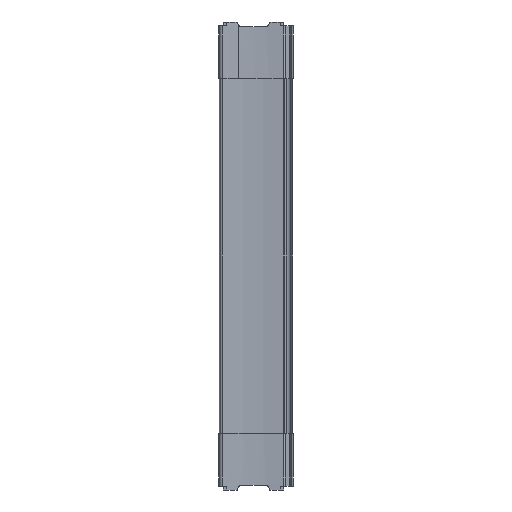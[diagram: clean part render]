
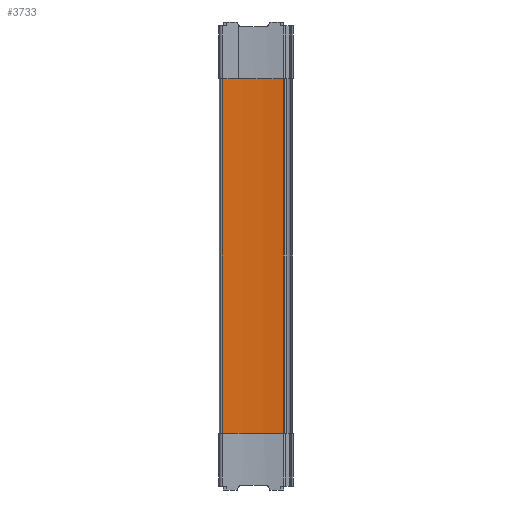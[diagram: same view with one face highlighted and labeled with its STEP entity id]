
A CAD part, left-side view. The second image highlights one B-rep face of the part: STEP entity #3733.
In plain terms, the highlighted cylindrical face has radius 250 mm (diameter 500 mm), a partial arc.
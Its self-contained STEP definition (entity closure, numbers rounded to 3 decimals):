
#574 = ORIENTED_EDGE ( 'NONE', *, *, #2150, .F. ) ;
#575 = ORIENTED_EDGE ( 'NONE', *, *, #2147, .F. ) ;
#576 = ORIENTED_EDGE ( 'NONE', *, *, #2046, .F. ) ;
#577 = ORIENTED_EDGE ( 'NONE', *, *, #2212, .T. ) ;
#1038 = CARTESIAN_POINT ( 'NONE',  ( -8.643, 8.331, 166.3 ) ) ;
#1039 = DIRECTION ( 'NONE',  ( 0., 0., -1. ) ) ;
#1040 = CARTESIAN_POINT ( 'NONE',  ( -255.319, 48.963, -160.3 ) ) ;
#1045 = DIRECTION ( 'NONE',  ( 0., 0., 1. ) ) ;
#1046 = DIRECTION ( 'NONE',  ( -1., 0., 0. ) ) ;
#1208 = CARTESIAN_POINT ( 'NONE',  ( -5.747, 63.571, 166.3 ) ) ;
#1209 = DIRECTION ( 'NONE',  ( 0., 0., -1. ) ) ;
#1278 = CARTESIAN_POINT ( 'NONE',  ( -5.747, 63.571, 160.3 ) ) ;
#1281 = CARTESIAN_POINT ( 'NONE',  ( -5.747, 63.571, -160.3 ) ) ;
#1379 = CARTESIAN_POINT ( 'NONE',  ( -8.643, 8.331, -160.3 ) ) ;
#1380 = CARTESIAN_POINT ( 'NONE',  ( -8.643, 8.331, 160.3 ) ) ;
#1544 = DIRECTION ( 'NONE',  ( -1., 0., 0. ) ) ;
#1545 = DIRECTION ( 'NONE',  ( 0., 0., -1. ) ) ;
#1546 = CARTESIAN_POINT ( 'NONE',  ( -255.319, 48.963, 166.3 ) ) ;
#2046 = EDGE_CURVE ( 'NONE', #2593, #2833, #4250, .T. ) ;
#2147 = EDGE_CURVE ( 'NONE', #2833, #2830, #4103, .T. ) ;
#2150 = EDGE_CURVE ( 'NONE', #2830, #2602, #4093, .T. ) ;
#2212 = EDGE_CURVE ( 'NONE', #2593, #2602, #4014, .T. ) ;
#2311 = AXIS2_PLACEMENT_3D ( 'NONE', #2633, #2621, #2620 ) ;
#2350 = AXIS2_PLACEMENT_3D ( 'NONE', #1040, #1045, #1046 ) ;
#2408 = AXIS2_PLACEMENT_3D ( 'NONE', #1546, #1545, #1544 ) ;
#2593 = VERTEX_POINT ( 'NONE', #1278 ) ;
#2602 = VERTEX_POINT ( 'NONE', #1281 ) ;
#2620 = DIRECTION ( 'NONE',  ( 1., 0., 0. ) ) ;
#2621 = DIRECTION ( 'NONE',  ( 0., 0., -1. ) ) ;
#2633 = CARTESIAN_POINT ( 'NONE',  ( -255.319, 48.963, 160.3 ) ) ;
#2830 = VERTEX_POINT ( 'NONE', #1379 ) ;
#2833 = VERTEX_POINT ( 'NONE', #1380 ) ;
#3613 = EDGE_LOOP ( 'NONE', ( #574, #575, #576, #577 ) ) ;
#3733 = ADVANCED_FACE ( 'NONE', ( #3960 ), #3957, .F. ) ;
#3957 = CYLINDRICAL_SURFACE ( 'NONE', #2408, 250. ) ;
#3960 = FACE_OUTER_BOUND ( 'NONE', #3613, .T. ) ;
#4004 = VECTOR ( 'NONE', #1209, 1000. ) ;
#4014 = LINE ( 'NONE', #1208, #4004 ) ;
#4093 = CIRCLE ( 'NONE', #2350, 250. ) ;
#4103 = LINE ( 'NONE', #1038, #4112 ) ;
#4112 = VECTOR ( 'NONE', #1039, 1000. ) ;
#4250 = CIRCLE ( 'NONE', #2311, 250. ) ;
